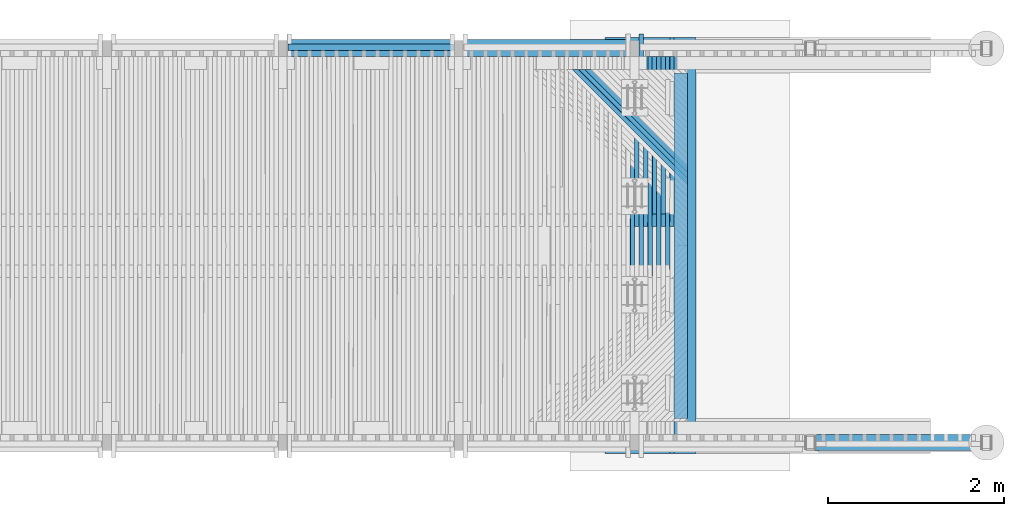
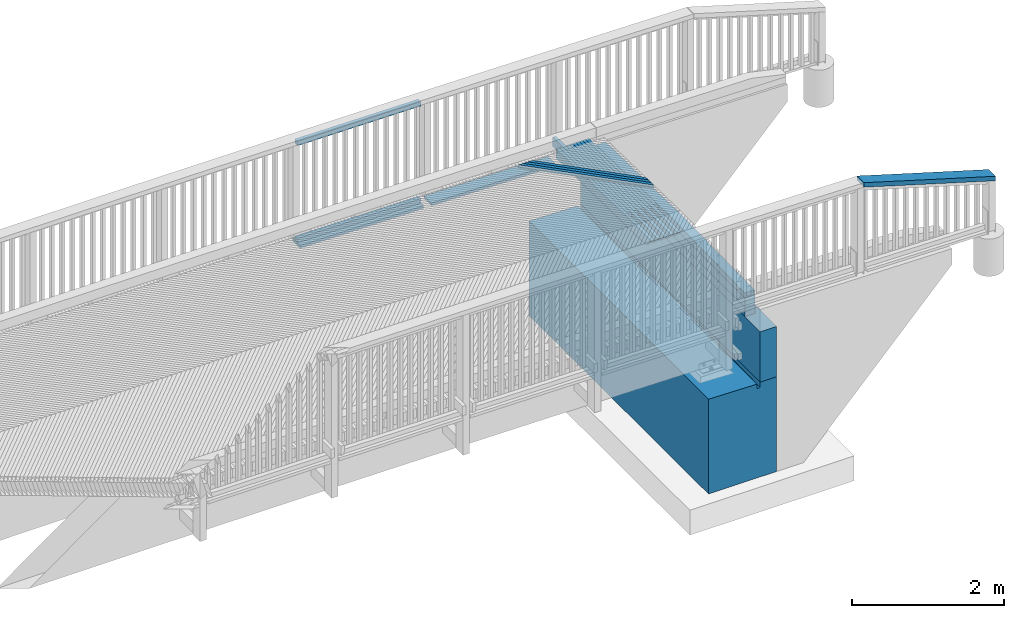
# One storey, part 45 of 52: 23 beams.
"""IFC2X3 building model written with IfcOpenShell, lengths in millimetres."""

from ifc_helpers import new_model, si_unit, frame, origin_with_axes, place, context, subcontext, project, spatial, faceted_brep, material, type_object, element, save


model = new_model("IFC2X3")

# Units and contexts
model_context = context("Model", 3, precision=1e-05, world=origin_with_axes())
body_context = subcontext(model_context, "Body", "Model", "MODEL_VIEW")
ifc_project = project(units=[si_unit("LENGTHUNIT", "METRE", prefix="MILLI"), si_unit("AREAUNIT", "SQUARE_METRE"), si_unit("VOLUMEUNIT", "CUBIC_METRE"), si_unit("MASSUNIT", "GRAM", prefix="KILO"), si_unit("TIMEUNIT", "SECOND"), si_unit("PLANEANGLEUNIT", "RADIAN"), si_unit("SOLIDANGLEUNIT", "STERADIAN"), si_unit("THERMODYNAMICTEMPERATUREUNIT", "DEGREE_CELSIUS"), si_unit("LUMINOUSINTENSITYUNIT", "LUMEN")], contexts=[model_context])

# Site, building, storey
site_placement = place(None, origin_with_axes())
site = spatial("IfcSite", under=ifc_project, at=site_placement, Name="Undefined", CompositionType="ELEMENT")
building_placement = place(site_placement, origin_with_axes())
building = spatial("IfcBuilding", under=site, at=building_placement, Name="Undefined", CompositionType="ELEMENT")
storey_placement = place(building_placement, origin_with_axes())
storey = spatial("IfcBuildingStorey", under=building, at=storey_placement, Name="Undefined", CompositionType="ELEMENT", Elevation=0.0)

# Beams
ifc_material_1 = material(Name="TIMBER/Timber_Undefined")
beam_type_1 = type_object("IfcBeamType", Name="150*150", PredefinedType="NOTDEFINED")
beam_1_placement = place(storey_placement, frame((16525.0, 399.999275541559, 3109.00000000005), z_axis=(1.0, 0.0, 0.0), x_axis=(0.0, 1.0, 0.0)))
element("IfcBeam", 1, at=beam_1_placement, inside=storey, type_object=beam_type_1, material=ifc_material_1, Name="BEAM", ObjectType="150*150", context=body_context, shape_type="Brep", body=[
    faceted_brep([(0.0, -75.0000000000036, 75.0000000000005), (0.0, -75.0, -74.9999999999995), (3930.0, -75.0, -75.0), (3930.0, -75.0, 75.0), (3930.0, 3.17681141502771, -75.0), (3930.0, 0.558028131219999, 75.0), (1965.00070282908, 39.8541855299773, 75.0), (0.0, 0.558000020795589, 75.0), (0.0, 3.1767833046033, -75.0), (1965.00070282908, 42.4729688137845, -75.0)], [[[0, 1, 2, 3]], [[3, 2, 4, 5]], [[0, 3, 5, 6, 7]], [[1, 0, 7, 8]], [[4, 2, 1, 8, 9]], [[5, 4, 9, 6]], [[8, 7, 6, 9]]]),
])
for number, where, z_axis, x_axis, name in (
    (2, (16525.0, 399.999275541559, 2959.00000000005), (1.0, 0.0, 0.0), (0.0, 1.0, 0.0), "BEAM"),
    (3, (16525.0, 399.999275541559, 2809.00000000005), (1.0, 0.0, 0.0), (0.0, 1.0, 0.0), "BEAM"),
):
    element("IfcBeam", number, at=place(storey_placement, frame(where, z_axis=z_axis, x_axis=x_axis)), inside=storey, type_object=beam_type_1, material=ifc_material_1, Name=name, ObjectType="150*150", context=body_context, shape_type="Brep", body=[
        faceted_brep([(3.63797880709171e-12, 75.0000000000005, -75.0), (3.63797880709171e-12, 75.0000000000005, 75.0), (3930.0, 75.0, 75.0), (3930.0, 75.0, -75.0), (0.0, -75.0000000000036, 75.0000000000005), (3930.0, -75.0, 75.0), (0.0, -75.0, -74.9999999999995), (3930.0, -75.0, -75.0)], [[[0, 1, 2, 3]], [[1, 4, 5, 2]], [[4, 6, 7, 5]], [[6, 0, 3, 7]], [[5, 7, 3, 2]], [[6, 4, 1, 0]]]),
    ])
ifc_material_2 = material(Name="CONCRETE/Concrete_Undefined")
beam_type_2 = type_object("IfcBeamType", Name="810*250", PredefinedType="NOTDEFINED")
beam_2_placement = place(storey_placement, frame((16575.0, 0.0, 2329.0), z_axis=(0.0, 0.0, 1.0), x_axis=(0.0, 1.0, 0.0)))
element("IfcBeam", 4, at=beam_2_placement, inside=storey, type_object=beam_type_2, material=ifc_material_2, Name="OTSAMUURI", ObjectType="810*250", context=body_context, shape_type="Brep", body=[
    faceted_brep([(0.0, 125.0, -405.0), (0.0, 125.0, 405.0), (4730.0, 125.0, 405.0), (4730.0, 125.0, -405.0), (0.0, -125.0, 405.0), (4730.0, -125.0, 405.0), (0.0, -125.0, -405.0), (4730.0, -125.0, -405.0)], [[[0, 1, 2, 3]], [[1, 4, 5, 2]], [[4, 6, 7, 5]], [[6, 0, 3, 7]], [[5, 7, 3, 2]], [[6, 4, 1, 0]]]),
])
beam_type_3 = type_object("IfcBeamType", Name="1524*1035", PredefinedType="NOTDEFINED")
beam_3_placement = place(storey_placement, frame((16182.5, 4.54747350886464e-13, 1162.0), z_axis=(0.0, 0.0, 1.0), x_axis=(0.0, 1.0, 0.0)))
element("IfcBeam", 5, at=beam_3_placement, inside=storey, type_object=beam_type_3, material=ifc_material_2, Name="LAAKERIPALKKI", ObjectType="1524*1035", context=body_context, shape_type="Brep", body=[
    faceted_brep([(4730.0, -217.5, 747.0), (2367.30822656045, -217.5, 747.0), (2367.55223388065, -217.5, 737.44257521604), (4730.0, -217.5, 676.997414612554), (2367.55223388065, -267.5, 737.44257521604), (4730.0, -267.5, 676.997414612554), (4730.0, -267.5, 762.0), (2366.92526672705, -267.5, 762.0), (4730.0, 517.5, -762.0), (0.0, 517.5, -762.0), (0.0, 517.5, 762.0), (4730.0, 517.5, 762.0), (0.0, -517.5, -762.0), (4730.0, -517.5, -762.0), (0.0, -517.5, 762.0), (4730.0, -517.5, 762.0), (2363.07473327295, -267.5, 762.0), (0.0, -267.5, 762.0), (0.0, -267.5, 676.997414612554), (0.0, -217.5, 676.997414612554), (0.0, -217.5, 747.0), (2362.45109111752, -267.5, 737.312339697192), (2362.45109111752, -217.5, 737.312339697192), (2362.69177343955, -217.5, 747.0)], [[[0, 1, 2, 3]], [[3, 2, 4, 5]], [[6, 5, 4, 7]], [[8, 9, 10, 11]], [[12, 9, 8, 13]], [[14, 12, 13, 15]], [[16, 17, 14, 15, 6, 7]], [[9, 12, 14, 17, 18, 19, 20, 10]], [[16, 7, 4, 21, 18, 17]], [[18, 21, 4, 2, 22, 19]], [[20, 19, 22, 2, 1, 23]], [[11, 10, 20, 23, 1, 0]], [[15, 13, 8, 11, 0, 3, 5, 6]]]),
])
beam_type_4 = type_object("IfcBeamType", Name="70*70", PredefinedType="NOTDEFINED")
for number, where, z_axis, x_axis, name in (
    (6, (12059.6944082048, 4619.98999909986, 2954.94799357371), (0.0, 1.0, 0.0), (0.999961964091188, 0.0, -0.0087218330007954), "BEAM"),
    (7, (12059.6944082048, 4619.98999909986, 4514.94799357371), (0.0, 1.0, 0.0), (0.999961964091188, 0.0, -0.0087218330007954), "BEAM"),
):
    element("IfcBeam", number, at=place(storey_placement, frame(where, z_axis=z_axis, x_axis=x_axis)), inside=storey, type_object=beam_type_4, material=ifc_material_1, Name=name, ObjectType="70*70", context=body_context, shape_type="Brep", body=[
        faceted_brep([(-3.63797880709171e-12, 35.0000000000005, -35.0), (-3.63797880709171e-12, 35.0000000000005, 35.0), (1880.07227097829, 34.9999999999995, 35.0), (1880.07227097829, 34.9999999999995, -35.0), (-3.63797880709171e-12, -34.9999999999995, 35.0), (1880.07227097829, -35.0000000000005, 35.0), (-3.63797880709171e-12, -34.9999999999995, -35.0), (1880.07227097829, -35.0000000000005, -35.0)], [[[0, 1, 2, 3]], [[1, 4, 5, 2]], [[4, 6, 7, 5]], [[6, 0, 3, 7]], [[5, 7, 3, 2]], [[6, 4, 1, 0]]]),
    ])
beam_type_5 = type_object("IfcBeamType", Name="180*70", PredefinedType="NOTDEFINED")
beam_4_placement = place(storey_placement, frame((18039.9342024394, 125.009964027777, 4517.05500293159), z_axis=(0.0, -1.0, 0.0), x_axis=(0.958243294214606, 0.0, -0.285954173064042)))
element("IfcBeam", 8, at=beam_4_placement, inside=storey, type_object=beam_type_5, material=ifc_material_1, Name="YLÄJOHDE", ObjectType="180*70", context=body_context, shape_type="Brep", body=[
    faceted_brep([(41.6879268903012, -35.0699417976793, -90.0), (41.6879268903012, -35.0699417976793, 90.0), (20.9594530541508, -35.0351891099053, 90.0), (20.9594530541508, -35.0351891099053, -90.0), (41.8028913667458, 34.9299637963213, 90.0), (0.0598773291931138, 34.9999487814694, 90.0), (41.8028913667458, 34.9299637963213, -90.0), (0.0598773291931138, 34.9999487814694, -90.0), (83.5459100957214, 34.8628353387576, -90.0), (83.4357358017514, -35.1370779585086, -90.0), (83.4357358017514, -35.1370779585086, 90.0), (83.5459100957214, 34.8628353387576, 90.0), (125.288933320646, 34.7985634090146, 90.0), (125.288933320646, 34.7985634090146, -90.0), (125.183549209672, -35.2013572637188, -90.0), (125.183549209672, -35.2013572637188, 90.0), (166.931366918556, -35.2627797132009, 90.0), (167.031960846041, 34.7371480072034, 90.0), (167.031960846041, 34.7371480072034, -90.0), (166.931366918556, -35.2627797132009, -90.0), (208.679188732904, -35.3213453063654, -90.0), (208.679188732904, -35.3213453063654, 90.0), (208.774992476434, 34.6785891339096, 90.0), (208.774992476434, 34.6785891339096, -90.0), (250.518028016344, 34.6228867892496, -90.0), (250.42701445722, -35.3770540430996, -90.0), (250.42701445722, -35.3770540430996, 90.0), (250.518028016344, 34.6228867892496, 90.0), (292.261067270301, 34.5700409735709, 90.0), (292.261067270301, 34.5700409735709, -90.0), (292.174843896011, -35.4299059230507, -90.0), (292.174843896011, -35.4299059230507, 90.0), (333.922676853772, -35.4799009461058, 90.0), (334.004110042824, 34.52005168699, 90.0), (334.004110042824, 34.52005168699, -90.0), (333.922676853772, -35.4799009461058, -90.0), (375.670513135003, -35.5270391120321, -90.0), (375.670513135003, -35.5270391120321, 90.0), (375.747156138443, 34.4729189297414, 90.0), (375.747156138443, 34.4729189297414, -90.0), (417.490205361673, 34.4286427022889, -90.0), (417.418352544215, -35.5713204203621, -90.0), (417.418352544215, -35.5713204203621, 90.0), (417.490205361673, 34.4286427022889, 90.0), (459.233257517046, 34.3872230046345, 90.0), (459.233257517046, 34.3872230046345, -90.0), (459.166194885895, -35.6127448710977, -90.0), (459.166194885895, -35.6127448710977, 90.0), (500.914039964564, -35.6513124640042, 90.0), (500.97631240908, 34.3486598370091, 90.0), (500.97631240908, 34.3486598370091, -90.0), (500.914039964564, -35.6513124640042, -90.0), (542.661887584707, -35.6870231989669, -90.0), (542.661887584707, -35.6870231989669, 90.0), (542.719369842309, 34.3129531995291, 90.0), (542.719369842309, 34.3129531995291, -90.0), (584.462429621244, 34.2801030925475, -90.0), (584.40973755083, -35.7198770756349, -90.0), (584.40973755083, -35.7198770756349, 90.0), (584.462429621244, 34.2801030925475, 90.0), (626.205491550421, 34.2501095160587, 90.0), (626.205491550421, 34.2501095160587, -90.0), (626.157589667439, -35.7498740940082, -90.0), (626.157589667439, -35.7498740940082, 90.0), (667.905443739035, -35.7770142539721, 90.0), (667.948555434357, 34.2229724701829, 90.0), (667.948555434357, 34.2229724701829, -90.0), (667.905443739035, -35.7770142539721, -90.0), (709.653299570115, -35.801297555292, -90.0), (709.653299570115, -35.801297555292, 90.0), (709.691621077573, 34.1986919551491, 90.0), (709.691621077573, 34.1986919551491, -90.0), (751.434688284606, 34.1772679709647, -90.0), (751.401156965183, -35.8227239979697, -90.0), (751.401156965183, -35.8227239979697, 90.0), (751.434688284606, 34.1772679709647, 90.0), (793.177756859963, 34.1587005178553, 90.0), (793.177756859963, 34.1587005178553, -90.0), (793.149015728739, -35.8412935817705, -90.0), (793.149015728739, -35.8412935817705, 90.0), (834.896875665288, -35.8570063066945, 90.0), (834.920826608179, 34.1429895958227, 90.0), (834.920826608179, 34.1429895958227, -90.0), (834.896875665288, -35.8570063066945, -90.0), (876.644736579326, -35.8698621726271, -90.0), (876.644736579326, -35.8698621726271, 90.0), (876.663897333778, 34.1301352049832, 90.0), (876.663897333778, 34.1301352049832, -90.0), (918.406968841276, 34.1201373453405, -90.0), (918.392598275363, -35.8798611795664, -90.0), (918.392598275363, -35.8798611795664, 90.0), (918.406968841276, 34.1201373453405, 90.0), (960.150040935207, 34.112996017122, 90.0), (960.150040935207, 34.112996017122, -90.0), (960.140460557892, -35.8870033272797, -90.0), (960.140460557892, -35.8870033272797, 90.0), (1001.88832323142, -35.8912886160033, 90.0), (1001.89311342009, 34.1087112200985, 90.0), (1001.89311342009, 34.1087112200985, -90.0), (1001.88832323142, -35.8912886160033, -90.0), (1043.63618610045, -35.8927170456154, -90.0), (1043.63618610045, -35.8927170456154, 90.0), (1043.63618610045, 34.1072829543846, 90.0), (1043.63618610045, 34.1072829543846, -90.0), (1085.3792587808, 34.1087112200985, -90.0), (1085.38404896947, -35.8912886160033, -90.0), (1085.38404896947, -35.8912886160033, 90.0), (1085.3792587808, 34.1087112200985, 90.0), (1127.12233126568, 34.112996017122, 90.0), (1127.12233126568, 34.112996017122, -90.0), (1127.131911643, -35.8870033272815, -90.0), (1127.131911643, -35.8870033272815, 90.0), (1168.87977392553, -35.8798611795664, 90.0), (1168.86540335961, 34.1201373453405, 90.0), (1168.86540335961, 34.1201373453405, -90.0), (1168.87977392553, -35.8798611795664, -90.0), (1210.62763562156, -35.8698621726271, -90.0), (1210.62763562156, -35.8698621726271, 90.0), (1210.60847486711, 34.130135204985, 90.0), (1210.60847486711, 34.130135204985, -90.0), (1252.35154559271, 34.1429895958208, -90.0), (1252.3754965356, -35.8570063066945, -90.0), (1252.3754965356, -35.8570063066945, 90.0), (1252.35154559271, 34.1429895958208, 90.0), (1294.09461534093, 34.1587005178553, 90.0), (1294.09461534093, 34.1587005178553, -90.0), (1294.12335647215, -35.8412935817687, -90.0), (1294.12335647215, -35.8412935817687, 90.0), (1335.87121523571, -35.8227239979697, 90.0), (1335.83768391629, 34.1772679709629, 90.0), (1335.83768391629, 34.1772679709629, -90.0), (1335.87121523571, -35.8227239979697, -90.0), (1377.61907263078, -35.801297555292, -90.0), (1377.61907263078, -35.801297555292, 90.0), (1377.58075112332, 34.1986919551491, 90.0), (1377.58075112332, 34.1986919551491, -90.0), (1419.32381676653, 34.222972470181, -90.0), (1419.36692846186, -35.7770142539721, -90.0), (1419.36692846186, -35.7770142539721, 90.0), (1419.32381676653, 34.222972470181, 90.0), (1461.06688065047, 34.2501095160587, 90.0), (1461.06688065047, 34.2501095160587, -90.0), (1461.11478253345, -35.74987409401, -90.0), (1461.11478253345, -35.74987409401, 90.0), (1502.86263465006, -35.7198770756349, 90.0), (1502.80994257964, 34.2801030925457, 90.0), (1502.80994257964, 34.2801030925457, -90.0), (1502.86263465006, -35.7198770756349, -90.0), (1544.61048461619, -35.6870231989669, -90.0), (1544.61048461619, -35.6870231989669, 90.0), (1544.55300235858, 34.3129531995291, 90.0), (1544.55300235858, 34.3129531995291, -90.0), (1586.29605979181, 34.3486598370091, -90.0), (1586.35833223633, -35.6513124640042, -90.0), (1586.35833223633, -35.6513124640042, 90.0), (1586.29605979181, 34.3486598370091, 90.0), (1628.03911468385, 34.3872230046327, 90.0), (1628.03911468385, 34.3872230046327, -90.0), (1628.10617731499, -35.6127448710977, -90.0), (1628.10617731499, -35.6127448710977, 90.0), (1669.85401965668, -35.5713204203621, 90.0), (1669.78216683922, 34.4286427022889, 90.0), (1669.78216683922, 34.4286427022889, -90.0), (1669.85401965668, -35.5713204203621, -90.0), (1711.60185906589, -35.5270391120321, -90.0), (1711.60185906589, -35.5270391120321, 90.0), (1711.52521606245, 34.4729189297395, 90.0), (1711.52521606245, 34.4729189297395, -90.0), (1753.26826215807, 34.52005168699, -90.0), (1753.34969534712, -35.4799009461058, -90.0), (1753.34969534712, -35.4799009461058, 90.0), (1753.26826215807, 34.52005168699, 90.0), (1795.01130493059, 34.5700409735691, 90.0), (1795.01130493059, 34.5700409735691, -90.0), (1795.09752830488, -35.4299059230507, -90.0), (1795.09752830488, -35.4299059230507, 90.0), (1836.84535774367, -35.3770540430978, 90.0), (1836.75434418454, 34.6228867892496, 90.0), (1836.75434418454, 34.6228867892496, -90.0), (1836.84535774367, -35.3770540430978, -90.0), (1878.59318346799, -35.3213453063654, -90.0), (1878.59318346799, -35.3213453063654, 90.0), (1878.49737972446, 34.6785891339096, 90.0), (1878.49737972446, 34.6785891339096, -90.0), (1920.24041135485, 34.7371480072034, -90.0), (1920.34100528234, -35.2627797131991, -90.0), (1920.34100528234, -35.2627797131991, 90.0), (1920.24041135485, 34.7371480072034, 90.0), (1961.98343888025, 34.7985634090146, 90.0), (1961.98343888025, 34.7985634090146, -90.0), (1962.08882299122, -35.2013572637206, -90.0), (1962.08882299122, -35.2013572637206, 90.0), (2003.83663639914, -35.1370779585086, 90.0), (2003.72646210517, 34.8628353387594, 90.0), (2003.72646210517, 34.8628353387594, -90.0), (2003.83663639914, -35.1370779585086, -90.0), (2045.58444531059, -35.0699417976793, 90.0), (2045.58444531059, -35.0699417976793, -90.0), (2087.33224953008, -34.9999487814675, -90.0), (2087.33224953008, -34.9999487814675, 90.0), (2045.46948083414, 34.9299637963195, 90.0), (2045.46948083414, 34.9299637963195, -90.0), (2087.2124948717, 34.9999487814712, -90.0), (2108.09074495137, -34.9637252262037, -90.0), (2108.09074495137, -34.9637252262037, 90.0), (2087.2124948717, 34.9999487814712, 90.0)], [[[0, 1, 2, 3]], [[1, 4, 5, 2]], [[4, 6, 7, 5]], [[2, 5, 7, 3]], [[6, 0, 3, 7]], [[0, 6, 8, 9]], [[1, 0, 9, 10]], [[4, 1, 10, 11]], [[6, 4, 11, 8]], [[8, 11, 12, 13]], [[9, 8, 13, 14]], [[10, 9, 14, 15]], [[11, 10, 15, 12]], [[12, 15, 16, 17]], [[13, 12, 17, 18]], [[14, 13, 18, 19]], [[15, 14, 19, 16]], [[16, 19, 20, 21]], [[17, 16, 21, 22]], [[18, 17, 22, 23]], [[19, 18, 23, 20]], [[20, 23, 24, 25]], [[21, 20, 25, 26]], [[22, 21, 26, 27]], [[23, 22, 27, 24]], [[24, 27, 28, 29]], [[25, 24, 29, 30]], [[26, 25, 30, 31]], [[27, 26, 31, 28]], [[28, 31, 32, 33]], [[29, 28, 33, 34]], [[30, 29, 34, 35]], [[31, 30, 35, 32]], [[32, 35, 36, 37]], [[33, 32, 37, 38]], [[34, 33, 38, 39]], [[35, 34, 39, 36]], [[36, 39, 40, 41]], [[37, 36, 41, 42]], [[38, 37, 42, 43]], [[39, 38, 43, 40]], [[40, 43, 44, 45]], [[41, 40, 45, 46]], [[42, 41, 46, 47]], [[43, 42, 47, 44]], [[44, 47, 48, 49]], [[45, 44, 49, 50]], [[46, 45, 50, 51]], [[47, 46, 51, 48]], [[48, 51, 52, 53]], [[49, 48, 53, 54]], [[50, 49, 54, 55]], [[51, 50, 55, 52]], [[52, 55, 56, 57]], [[53, 52, 57, 58]], [[54, 53, 58, 59]], [[55, 54, 59, 56]], [[56, 59, 60, 61]], [[57, 56, 61, 62]], [[58, 57, 62, 63]], [[59, 58, 63, 60]], [[60, 63, 64, 65]], [[61, 60, 65, 66]], [[62, 61, 66, 67]], [[63, 62, 67, 64]], [[64, 67, 68, 69]], [[65, 64, 69, 70]], [[66, 65, 70, 71]], [[67, 66, 71, 68]], [[68, 71, 72, 73]], [[69, 68, 73, 74]], [[70, 69, 74, 75]], [[71, 70, 75, 72]], [[72, 75, 76, 77]], [[73, 72, 77, 78]], [[74, 73, 78, 79]], [[75, 74, 79, 76]], [[76, 79, 80, 81]], [[77, 76, 81, 82]], [[78, 77, 82, 83]], [[79, 78, 83, 80]], [[80, 83, 84, 85]], [[81, 80, 85, 86]], [[82, 81, 86, 87]], [[83, 82, 87, 84]], [[84, 87, 88, 89]], [[85, 84, 89, 90]], [[86, 85, 90, 91]], [[87, 86, 91, 88]], [[88, 91, 92, 93]], [[89, 88, 93, 94]], [[90, 89, 94, 95]], [[91, 90, 95, 92]], [[92, 95, 96, 97]], [[93, 92, 97, 98]], [[94, 93, 98, 99]], [[95, 94, 99, 96]], [[96, 99, 100, 101]], [[97, 96, 101, 102]], [[98, 97, 102, 103]], [[99, 98, 103, 100]], [[100, 103, 104, 105]], [[101, 100, 105, 106]], [[102, 101, 106, 107]], [[103, 102, 107, 104]], [[104, 107, 108, 109]], [[105, 104, 109, 110]], [[106, 105, 110, 111]], [[107, 106, 111, 108]], [[108, 111, 112, 113]], [[109, 108, 113, 114]], [[110, 109, 114, 115]], [[111, 110, 115, 112]], [[112, 115, 116, 117]], [[113, 112, 117, 118]], [[114, 113, 118, 119]], [[115, 114, 119, 116]], [[116, 119, 120, 121]], [[117, 116, 121, 122]], [[118, 117, 122, 123]], [[119, 118, 123, 120]], [[120, 123, 124, 125]], [[121, 120, 125, 126]], [[122, 121, 126, 127]], [[123, 122, 127, 124]], [[124, 127, 128, 129]], [[125, 124, 129, 130]], [[126, 125, 130, 131]], [[127, 126, 131, 128]], [[128, 131, 132, 133]], [[129, 128, 133, 134]], [[130, 129, 134, 135]], [[131, 130, 135, 132]], [[132, 135, 136, 137]], [[133, 132, 137, 138]], [[134, 133, 138, 139]], [[135, 134, 139, 136]], [[136, 139, 140, 141]], [[137, 136, 141, 142]], [[138, 137, 142, 143]], [[139, 138, 143, 140]], [[140, 143, 144, 145]], [[141, 140, 145, 146]], [[142, 141, 146, 147]], [[143, 142, 147, 144]], [[144, 147, 148, 149]], [[145, 144, 149, 150]], [[146, 145, 150, 151]], [[147, 146, 151, 148]], [[148, 151, 152, 153]], [[149, 148, 153, 154]], [[150, 149, 154, 155]], [[151, 150, 155, 152]], [[152, 155, 156, 157]], [[153, 152, 157, 158]], [[154, 153, 158, 159]], [[155, 154, 159, 156]], [[156, 159, 160, 161]], [[157, 156, 161, 162]], [[158, 157, 162, 163]], [[159, 158, 163, 160]], [[160, 163, 164, 165]], [[161, 160, 165, 166]], [[162, 161, 166, 167]], [[163, 162, 167, 164]], [[164, 167, 168, 169]], [[165, 164, 169, 170]], [[166, 165, 170, 171]], [[167, 166, 171, 168]], [[168, 171, 172, 173]], [[169, 168, 173, 174]], [[170, 169, 174, 175]], [[171, 170, 175, 172]], [[172, 175, 176, 177]], [[173, 172, 177, 178]], [[174, 173, 178, 179]], [[175, 174, 179, 176]], [[176, 179, 180, 181]], [[177, 176, 181, 182]], [[178, 177, 182, 183]], [[179, 178, 183, 180]], [[180, 183, 184, 185]], [[181, 180, 185, 186]], [[182, 181, 186, 187]], [[183, 182, 187, 184]], [[184, 187, 188, 189]], [[185, 184, 189, 190]], [[186, 185, 190, 191]], [[187, 186, 191, 188]], [[188, 191, 192, 193]], [[189, 188, 193, 194]], [[190, 189, 194, 195]], [[191, 190, 195, 192]], [[196, 197, 198, 199]], [[192, 195, 197, 196]], [[193, 192, 196, 200]], [[194, 193, 200, 201]], [[195, 194, 201, 197]], [[197, 201, 202, 198]], [[198, 202, 203]], [[199, 198, 203, 204]], [[199, 204, 205]], [[200, 196, 199, 205]], [[201, 200, 205, 202]], [[204, 203, 202, 205]]]),
])
beam_type_6 = type_object("IfcBeamType", Name="50*50", PredefinedType="NOTDEFINED")
beam_5_placement = place(storey_placement, frame((17471.0147750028, 2365.49989967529, 3161.6292973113), z_axis=(0.706824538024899, 0.706981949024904, -0.0239915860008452), x_axis=(-0.707251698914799, 0.706948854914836, -0.004283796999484)))
element("IfcBeam", 9, at=beam_5_placement, inside=storey, type_object=beam_type_6, material=ifc_material_1, Name="BEAM", ObjectType="50*50", context=body_context, shape_type="Brep", body=[
    faceted_brep([(2804.3406783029, -25.0000000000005, 24.9999999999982), (2854.34301907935, -24.9999999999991, -25.0), (2852.92877373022, 25.0000000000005, -25.0), (2802.92643296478, 25.0, 24.9999999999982), (1257.02588801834, 24.9999999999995, 25.0000000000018), (1256.04093053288, -25.0000000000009, 25.0), (1206.07112918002, -25.0, -24.9999999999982), (1207.05608666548, 24.9999999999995, -24.9999999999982)], [[[0, 1, 2, 3]], [[0, 3, 4, 5]], [[1, 0, 5, 6]], [[2, 1, 6, 7]], [[3, 2, 7, 4]], [[6, 5, 4, 7]]]),
])
beam_6_placement = place(storey_placement, frame((17400.2992263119, 2365.49989967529, 3162.73761579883), z_axis=(0.706827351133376, 0.706981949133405, -0.0239085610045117), x_axis=(-0.707251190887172, 0.70694885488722, -0.00436687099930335)))
element("IfcBeam", 10, at=beam_6_placement, inside=storey, type_object=beam_type_6, material=ifc_material_1, Name="BEAM", ObjectType="50*50", context=body_context, shape_type="Brep", body=[
    faceted_brep([(2804.3406783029, -25.0000000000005, 24.9999999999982), (2854.34301907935, -24.9999999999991, -25.0), (2852.92877373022, 25.0000000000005, -25.0), (2802.92643296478, 25.0, 24.9999999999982), (1157.03627142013, 25.0000000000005, 24.9999999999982), (1156.05961482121, -25.0, 24.9999999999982), (1106.08957869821, -24.9999999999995, -25.0), (1107.06623529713, 25.0000000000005, -25.0)], [[[0, 1, 2, 3]], [[0, 3, 4, 5]], [[1, 0, 5, 6]], [[2, 1, 6, 7]], [[3, 2, 7, 4]], [[6, 5, 4, 7]]]),
])
beam_7_placement = place(storey_placement, frame((17329.583547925, 2365.49989967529, 3163.83762798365), z_axis=(0.706830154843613, 0.70698194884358, -0.0238255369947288), x_axis=(-0.707250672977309, 0.706948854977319, -0.00444994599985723)))
element("IfcBeam", 11, at=beam_7_placement, inside=storey, type_object=beam_type_6, material=ifc_material_1, Name="BEAM", ObjectType="50*50", context=body_context, shape_type="Brep", body=[
    faceted_brep([(2804.3406783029, -25.0000000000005, 24.9999999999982), (2854.34301907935, -24.9999999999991, -25.0), (2852.92877373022, 25.0000000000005, -25.0), (2802.92643296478, 25.0, 24.9999999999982), (1057.04634223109, 25.0, 25.0000000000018), (1056.07798651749, -25.0, 25.0000000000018), (1006.10771559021, -25.0, -24.9999999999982), (1007.0760713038, 25.0, -24.9999999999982)], [[[0, 1, 2, 3]], [[0, 3, 4, 5]], [[1, 0, 5, 6]], [[2, 1, 6, 7]], [[3, 2, 7, 4]], [[6, 5, 4, 7]]]),
])
beam_type_7 = type_object("IfcBeamType", Name="195*45", PredefinedType="NOTDEFINED")
for number, where, z_axis, x_axis, name in (
    (12, (14058.0137394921, 4612.49001181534, 2880.86626034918), (0.0, 1.0, 0.0), (0.999925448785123, 0.0, -0.0122105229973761), "BEAM"),
    (13, (12058.3367436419, 4612.48999909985, 2897.4668963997), (0.0, 1.0, 0.0), (0.999961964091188, 0.0, -0.0087218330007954), "BEAM"),
):
    element("IfcBeam", number, at=place(storey_placement, frame(where, z_axis=z_axis, x_axis=x_axis)), inside=storey, type_object=beam_type_7, material=ifc_material_1, Name=name, ObjectType="195*45", context=body_context, shape_type="Brep", body=[
        faceted_brep([(3.63797880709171e-12, 22.4999999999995, -97.5), (3.63797880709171e-12, 22.4999999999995, 97.5), (1880.22135781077, 22.4999999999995, 97.5), (1880.22135781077, 22.4999999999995, -97.5), (1.81898940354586e-12, -22.5000000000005, 97.5), (1880.22135781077, -22.5000000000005, 97.5), (1.81898940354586e-12, -22.5000000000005, -97.5), (1880.22135781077, -22.5000000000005, -97.5)], [[[0, 1, 2, 3]], [[1, 4, 5, 2]], [[4, 6, 7, 5]], [[6, 0, 3, 7]], [[5, 7, 3, 2]], [[6, 4, 1, 0]]]),
    ])
beam_type_8 = type_object("IfcBeamType", Name="150*50", PredefinedType="NOTDEFINED")
beam_8_placement = place(storey_placement, frame((16374.1835977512, 4513.4953923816, 3034.87917629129), z_axis=(0.013832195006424, 0.0199960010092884, 0.999704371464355), x_axis=(0.000276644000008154, -0.999800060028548, 0.0199940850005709)))
element("IfcBeam", 14, at=beam_8_placement, inside=storey, type_object=beam_type_8, material=ifc_material_1, Name="BEAM", ObjectType="150*50", context=body_context, shape_type="Brep", body=[
    faceted_brep([(-1.67788130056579e-07, -24.9999999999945, -74.9999999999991), (-1.67787220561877e-07, 25.0000000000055, -75.0), (2375.00494422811, 25.0000000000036, -74.9999999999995), (2375.0049444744, -24.9999999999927, -74.9999999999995), (1.67786311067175e-07, -24.9999999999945, 75.0000000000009), (1.67786311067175e-07, 25.0000000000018, 75.0), (2150.42515052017, 25.0000000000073, 75.0), (2510.59248715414, 25.0000000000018, 60.5875433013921), (2510.5924871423, -24.9999999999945, 60.5875430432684), (2150.42514405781, -24.9999999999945, 75.0000000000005)], [[[0, 1, 2, 3]], [[0, 4, 5, 1]], [[2, 1, 5, 6, 7]], [[3, 2, 7, 8]], [[4, 0, 3, 8, 9]], [[5, 4, 9, 6]], [[8, 7, 6, 9]]]),
])
beam_9_placement = place(storey_placement, frame((16424.1987277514, 4513.49539238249, 3034.17884260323), z_axis=(0.0139982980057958, 0.0199960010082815, 0.999702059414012), x_axis=(0.000279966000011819, -0.999800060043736, 0.0199940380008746)))
element("IfcBeam", 15, at=beam_9_placement, inside=storey, type_object=beam_type_8, material=ifc_material_1, Name="BEAM", ObjectType="150*50", context=body_context, shape_type="Brep", body=[
    faceted_brep([(-1.67788130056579e-07, -24.9999999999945, -74.9999999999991), (1.67786311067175e-07, -24.9999999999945, 75.0000000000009), (1.67786311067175e-07, 25.0000000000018, 75.0), (-1.67787220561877e-07, 25.0000000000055, -75.0), (1789.96936408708, 24.9999999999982, 75.0000000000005), (1928.42646328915, 24.9999999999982, -74.9999999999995), (1928.42646353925, -25.0, -75.0), (1789.96936433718, -25.0000000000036, 74.9999999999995)], [[[0, 1, 2, 3]], [[3, 2, 4, 5]], [[0, 3, 5, 6]], [[1, 0, 6, 7]], [[2, 1, 7, 4]], [[5, 4, 7, 6]]]),
])
beam_10_placement = place(storey_placement, frame((16274.1731307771, 4513.4953923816, 3036.26228302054), z_axis=(0.0136660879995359, 0.0199960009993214, 0.999706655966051), x_axis=(0.000273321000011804, -0.999800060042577, 0.0199941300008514)))
element("IfcBeam", 16, at=beam_10_placement, inside=storey, type_object=beam_type_8, material=ifc_material_1, Name="BEAM", ObjectType="150*50", context=body_context, shape_type="Brep", body=[
    faceted_brep([(-1.67788130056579e-07, -24.9999999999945, -74.9999999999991), (-1.67787220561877e-07, 25.0000000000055, -75.0), (2375.00494422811, 25.0000000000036, -74.9999999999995), (2375.0049444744, -24.9999999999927, -74.9999999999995), (1.67786311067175e-07, -24.9999999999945, 75.0000000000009), (1.67786311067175e-07, 25.0000000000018, 75.0), (2150.42515052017, 25.0000000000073, 75.0), (2510.59248715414, 25.0000000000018, 60.5875433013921), (2510.5924871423, -24.9999999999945, 60.5875430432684), (2150.42514405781, -24.9999999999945, 75.0000000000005)], [[[0, 1, 2, 3]], [[0, 4, 5, 1]], [[2, 1, 5, 6, 7]], [[3, 2, 7, 8]], [[4, 0, 3, 8, 9]], [[5, 4, 9, 6]], [[8, 7, 6, 9]]]),
])
beam_11_placement = place(storey_placement, frame((16324.1883764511, 4513.49539238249, 3035.57025962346), z_axis=(0.013832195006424, 0.0199960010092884, 0.999704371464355), x_axis=(0.000276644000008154, -0.999800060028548, 0.0199940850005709)))
element("IfcBeam", 17, at=beam_11_placement, inside=storey, type_object=beam_type_8, material=ifc_material_1, Name="BEAM", ObjectType="150*50", context=body_context, shape_type="Brep", body=[
    faceted_brep([(-1.67788130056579e-07, -24.9999999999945, -74.9999999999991), (1.67786311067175e-07, -24.9999999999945, 75.0000000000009), (1.67786311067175e-07, 25.0000000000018, 75.0), (-1.67787220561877e-07, 25.0000000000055, -75.0), (1789.96936408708, 24.9999999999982, 75.0000000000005), (1928.42646328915, 24.9999999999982, -74.9999999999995), (1928.42646353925, -25.0, -75.0), (1789.96936433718, -25.0000000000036, 74.9999999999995)], [[[0, 1, 2, 3]], [[3, 2, 4, 5]], [[0, 3, 5, 6]], [[1, 0, 6, 7]], [[2, 1, 7, 4]], [[5, 4, 7, 6]]]),
])
beam_12_placement = place(storey_placement, frame((16174.162435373, 4513.4953923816, 3037.62877245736), z_axis=(0.0134999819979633, 0.0199960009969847, 0.999708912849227), x_axis=(0.000269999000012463, -0.999800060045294, 0.0199941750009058)))
element("IfcBeam", 18, at=beam_12_placement, inside=storey, type_object=beam_type_8, material=ifc_material_1, Name="BEAM", ObjectType="150*50", context=body_context, shape_type="Brep", body=[
    faceted_brep([(-1.67788130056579e-07, -24.9999999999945, -74.9999999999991), (-1.67787220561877e-07, 25.0000000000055, -75.0), (2375.00494422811, 25.0000000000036, -74.9999999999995), (2375.0049444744, -24.9999999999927, -74.9999999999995), (1.67786311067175e-07, -24.9999999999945, 75.0000000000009), (1.67786311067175e-07, 25.0000000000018, 75.0), (2150.42515052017, 25.0000000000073, 75.0), (2510.59248715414, 25.0000000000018, 60.5875433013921), (2510.5924871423, -24.9999999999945, 60.5875430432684), (2150.42514405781, -24.9999999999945, 75.0000000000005)], [[[0, 1, 2, 3]], [[0, 4, 5, 1]], [[2, 1, 5, 6, 7]], [[3, 2, 7, 8]], [[4, 0, 3, 8, 9]], [[5, 4, 9, 6]], [[8, 7, 6, 9]]]),
])
for number, where, z_axis, x_axis, name in (
    (19, (16224.1777953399, 4513.49539238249, 3036.94505937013), (0.0136660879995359, 0.0199960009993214, 0.999706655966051), (0.000273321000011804, -0.999800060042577, 0.0199941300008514), "BEAM"),
    (20, (16124.166987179, 4513.49539238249, 3038.30324180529), (0.0134999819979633, 0.0199960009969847, 0.999708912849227), (0.000269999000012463, -0.999800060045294, 0.0199941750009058), "BEAM"),
):
    element("IfcBeam", number, at=place(storey_placement, frame(where, z_axis=z_axis, x_axis=x_axis)), inside=storey, type_object=beam_type_8, material=ifc_material_1, Name=name, ObjectType="150*50", context=body_context, shape_type="Brep", body=[
        faceted_brep([(-1.67788130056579e-07, -24.9999999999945, -74.9999999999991), (1.67786311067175e-07, -24.9999999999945, 75.0000000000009), (1.67786311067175e-07, 25.0000000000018, 75.0), (-1.67787220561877e-07, 25.0000000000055, -75.0), (1789.96936408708, 24.9999999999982, 75.0000000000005), (1928.42646328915, 24.9999999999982, -74.9999999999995), (1928.42646353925, -25.0, -75.0), (1789.96936433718, -25.0000000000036, 74.9999999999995)], [[[0, 1, 2, 3]], [[3, 2, 4, 5]], [[0, 3, 5, 6]], [[1, 0, 6, 7]], [[2, 1, 7, 4]], [[5, 4, 7, 6]]]),
    ])
beam_13_placement = place(storey_placement, frame((15974.1403703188, 4513.4953923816, 3040.31189930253), z_axis=(0.0131677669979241, 0.0199960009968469, 0.999713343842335), x_axis=(0.00026335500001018, -0.999800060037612, 0.0199942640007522)))
element("IfcBeam", 21, at=beam_13_placement, inside=storey, type_object=beam_type_8, material=ifc_material_1, Name="BEAM", ObjectType="150*50", context=body_context, shape_type="Brep", body=[
    faceted_brep([(-1.67788130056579e-07, -24.9999999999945, -74.9999999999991), (-1.67787220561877e-07, 25.0000000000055, -75.0), (2375.00494422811, 25.0000000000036, -74.9999999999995), (2375.0049444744, -24.9999999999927, -74.9999999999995), (1.67786311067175e-07, -24.9999999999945, 75.0000000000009), (1.67786311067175e-07, 25.0000000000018, 75.0), (2150.42515052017, 25.0000000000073, 75.0), (2510.59248715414, 25.0000000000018, 60.5875433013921), (2510.5924871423, -24.9999999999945, 60.5875430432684), (2150.42514405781, -24.9999999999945, 75.0000000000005)], [[[0, 1, 2, 3]], [[0, 4, 5, 1]], [[2, 1, 5, 6, 7]], [[3, 2, 7, 8]], [[4, 0, 3, 8, 9]], [[5, 4, 9, 6]], [[8, 7, 6, 9]]]),
])
beam_14_placement = place(storey_placement, frame((16024.1559547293, 4513.49539238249, 3039.64480689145), z_axis=(0.0133338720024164, 0.0199960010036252, 0.999711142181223), x_axis=(0.000266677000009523, -0.999800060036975, 0.0199942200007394)))
element("IfcBeam", 22, at=beam_14_placement, inside=storey, type_object=beam_type_8, material=ifc_material_1, Name="BEAM", ObjectType="150*50", context=body_context, shape_type="Brep", body=[
    faceted_brep([(-1.67788130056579e-07, -24.9999999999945, -74.9999999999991), (1.67786311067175e-07, -24.9999999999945, 75.0000000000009), (1.67786311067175e-07, 25.0000000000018, 75.0), (-1.67787220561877e-07, 25.0000000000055, -75.0), (1789.96936408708, 24.9999999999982, 75.0000000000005), (1928.42646328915, 24.9999999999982, -74.9999999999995), (1928.42646353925, -25.0, -75.0), (1789.96936433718, -25.0000000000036, 74.9999999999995)], [[[0, 1, 2, 3]], [[3, 2, 4, 5]], [[0, 3, 5, 6]], [[1, 0, 6, 7]], [[2, 1, 7, 4]], [[5, 4, 7, 6]]]),
])
beam_15_placement = place(storey_placement, frame((16074.4422229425, 4771.44380785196, 3033.82077916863), z_axis=(0.0133324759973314, 0.0199960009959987, 0.999711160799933), x_axis=(0.000266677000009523, -0.999800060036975, 0.0199942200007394)))
element("IfcBeam", 23, at=beam_15_placement, inside=storey, type_object=beam_type_8, material=ifc_material_1, Name="BEAM", ObjectType="150*50", context=body_context, shape_type="Brep", body=[
    faceted_brep([(-1.67788130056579e-07, -24.9999999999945, -74.9999999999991), (-1.67787220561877e-07, 25.0000000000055, -75.0), (2633.00494750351, 25.0, -74.9999999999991), (2633.00494763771, -25.0, -74.9999999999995), (1.67786311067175e-07, -24.9999999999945, 75.0000000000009), (1.67786311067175e-07, 25.0000000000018, 75.0), (2408.42506824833, 25.0, 75.0000000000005), (2768.59248710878, 24.9999999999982, 60.5875398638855), (2768.59248713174, -25.0, 60.5875397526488), (2408.42506549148, -25.0, 75.0000000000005)], [[[0, 1, 2, 3]], [[0, 4, 5, 1]], [[2, 1, 5, 6, 7]], [[3, 2, 7, 8]], [[4, 0, 3, 8, 9]], [[5, 4, 9, 6]], [[8, 7, 6, 9]]]),
])

save(model, "model.ifc")
